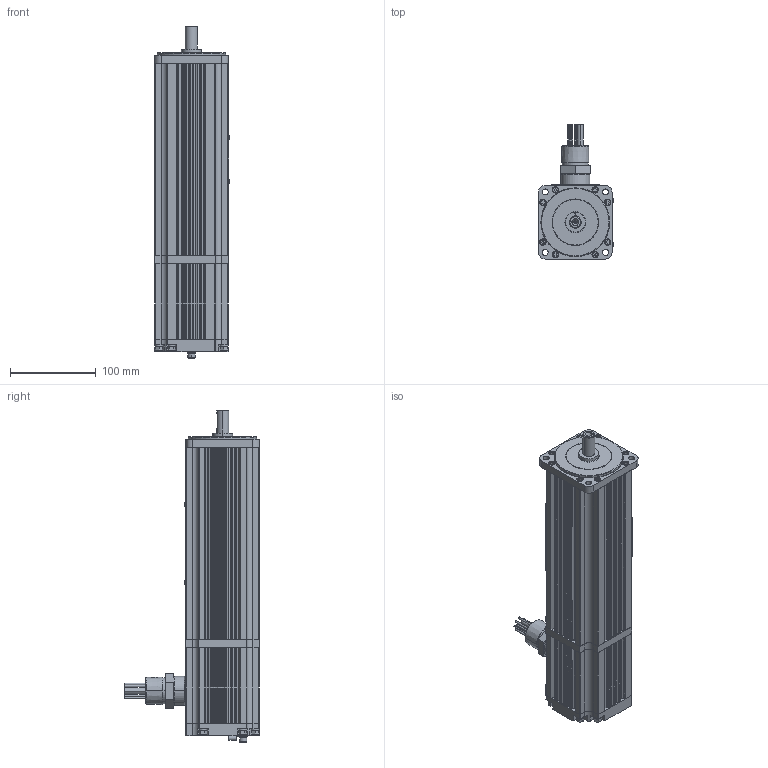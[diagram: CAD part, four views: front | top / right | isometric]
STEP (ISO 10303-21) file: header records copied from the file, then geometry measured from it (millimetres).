
FILE_DESCRIPTION (( 'STEP AP203' ), '1' );
FILE_NAME ('M431-NNNB-CG08.STEP', '2010-09-20T20:59:03', ( '' ), ( '' ), 'SwSTEP 2.0', 'SolidWorks 2010', '' );
FILE_SCHEMA (( 'CONFIG_CONTROL_DESIGN' ));
Products named in the file (1): M431-NNNB-CG08
Bounding box: 87.61 x 157.81 x 388.21 mm (x, y, z)
Surface area: 309713.6 mm2 (no closed solid volume)
Topology: 0 solids, 187 shells, 1950 faces, 6656 edges, 4879 vertices
Faces by surface type: plane 935, cylinder 730, cone 128, torus 87, bspline 66, sphere 4
Entity records: 82362 total; most frequent: CARTESIAN_POINT 25656, DIRECTION 11783, ORIENTED_EDGE 10173, EDGE_CURVE 6642, VERTEX_POINT 4879, VECTOR 3929, LINE 3929, AXIS2_PLACEMENT_3D 3927
